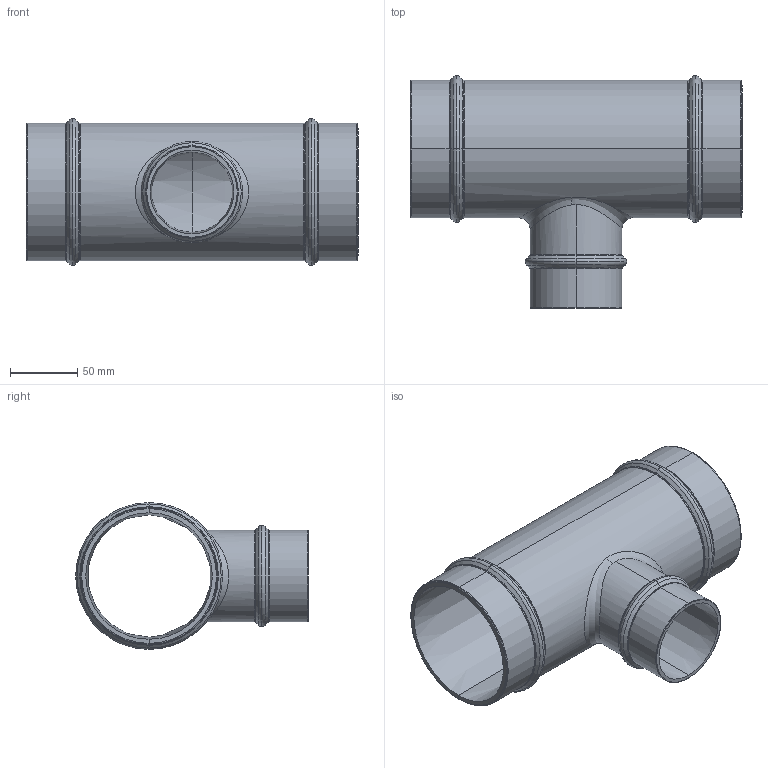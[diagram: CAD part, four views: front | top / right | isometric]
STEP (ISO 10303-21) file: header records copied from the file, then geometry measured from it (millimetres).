
FILE_DESCRIPTION(/* description */ (''),/* implementation_level */ '2;1');
FILE_NAME(/* name */ '8607_stp.stp',/* time_stamp */ '2025-06-20T11:33:01+08:00',/* author */ (''),/* organization */ (''),/* preprocessor_version */ 'ST-DEVELOPER v14',/* originating_system */ 'SIEMENS PLM Software NX 8.0',/* authorisation */ '');
FILE_SCHEMA (('AP203_CONFIGURATION_CONTROLLED_3D_DESIGN_OF_MECHANICAL_PARTS_AND_ASSEMBLIES_MIM_LF { 1 0 10303 403 2 1 2}'));
Length unit declared in the file: millimetre
Products named in the file (1): Admi0BECFFFE4xpx
Bounding box: 246.04 x 172.4 x 108.8 mm (x, y, z)
Volume: 411526.2 mm3; surface area: 178608.8 mm2
Topology: 1 solids, 1 shells, 83 faces, 172 edges, 89 vertices
Faces by surface type: torus 48, cone 22, cylinder 10, bspline 2, plane 1
Entity records: 4985 total; most frequent: CARTESIAN_POINT 3075, DIRECTION 458, ORIENTED_EDGE 344, AXIS2_PLACEMENT_3D 213, EDGE_CURVE 172, CIRCLE 131, VERTEX_POINT 89, EDGE_LOOP 85
